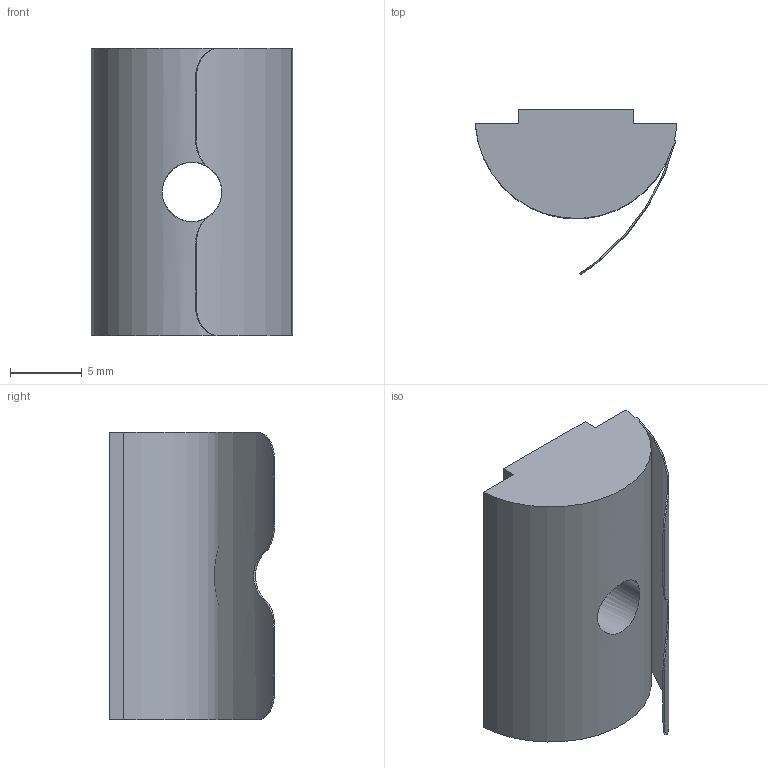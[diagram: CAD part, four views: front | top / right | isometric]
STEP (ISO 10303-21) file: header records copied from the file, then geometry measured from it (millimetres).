
FILE_DESCRIPTION((''),'2;1');
FILE_NAME('E:\catalogue and flyer\Profile catalogue 2015\Accessories JE info\Accessories-JE step file 31MAr16\JE-SN5-8_4040.stp','2016-03-31T16:50:33',('h029'),(''),'Autodesk Inventor 11','Autodesk Inventor 11','');
FILE_SCHEMA(('AUTOMOTIVE_DESIGN { 1 0 10303 214 1 1 1 1 }'));
Length unit declared in the file: millimetre
Products named in the file (1): JE-SN5-8_4040
Bounding box: 14 x 11.49 x 20 mm (x, y, z)
Volume: 1509.9 mm3; surface area: 1406.3 mm2
Topology: 1 solids, 1 shells, 21 faces, 57 edges, 38 vertices
Faces by surface type: plane 10, cylinder 6, bspline 4, cone 1
Entity records: 915 total; most frequent: CARTESIAN_POINT 391, ORIENTED_EDGE 108, DIRECTION 93, EDGE_CURVE 54, VERTEX_POINT 37, AXIS2_PLACEMENT_3D 32, VECTOR 29, LINE 29
